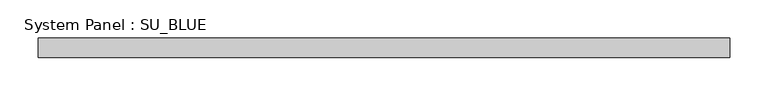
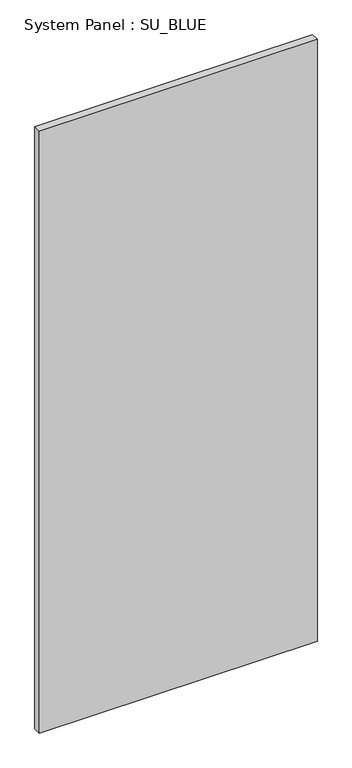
"""IFC4 building model written with IfcOpenShell, lengths in millimetres: plate geometry, System Panel : SU_BLUE."""

import ifcopenshell
import ifcopenshell.guid

model = None  # the IFC model being written
_history = None  # IfcOwnerHistory: only IFC2X3 demands one
_inside = {}  # id of a spatial element -> (the spatial element, [elements in it])
_under = {}  # id of a project, library or spatial element -> (it, [spatial elements below it])
_declared = {}  # id of a project -> (the project, [libraries it declares])
_typed = {}  # id of a type object -> (the type object, [elements of that type])
_made_of = {}  # id of a material, layer set ... -> (it, [elements and type objects made of it])


def new_model(schema):
    """Start an empty IFC model of exactly this schema.

    Asked for "IFC4X3", IfcOpenShell would pick the latest addendum, in which some entities
    have other attributes; the version numbers below select the first issue.
    IFC2X3 requires an IfcOwnerHistory on every rooted entity: one is made here for all.
    """
    global model, _history
    if schema == "IFC4X3":
        model = ifcopenshell.file(schema_version=(4, 3, 0, 0))
    else:
        model = ifcopenshell.file(schema=schema)
    _inside.clear()
    _under.clear()
    _declared.clear()
    _typed.clear()
    _made_of.clear()
    _history = None
    if model.schema == "IFC2X3":
        org = make("IfcOrganization", Name="unknown")
        user = make(
            "IfcPersonAndOrganization",
            ThePerson=make("IfcPerson", FamilyName="unknown"),
            TheOrganization=org,
        )
        app = make(
            "IfcApplication",
            ApplicationDeveloper=org,
            Version="unknown",
            ApplicationFullName="unknown",
            ApplicationIdentifier="unknown",
        )
        _history = make(
            "IfcOwnerHistory",
            OwningUser=user,
            OwningApplication=app,
            ChangeAction="ADDED",
            CreationDate=0,
        )
    return model


def make(cls, **values):
    """One entity of the class cls with the attributes given. An attribute that is None is left unset."""
    return model.create_entity(
        cls, **{name: value for name, value in values.items() if value is not None}
    )


def rooted(cls, **values):
    """An entity with a GlobalId (a new one), such as an element, a storey or a relation."""
    return make(cls, GlobalId=ifcopenshell.guid.new(), OwnerHistory=_history, **values)


def si_unit(unit_type, name, prefix=None):
    """IfcSIUnit, for example si_unit("LENGTHUNIT", "METRE", prefix="MILLI")."""
    return make("IfcSIUnit", UnitType=unit_type, Prefix=prefix, Name=name)


def assignment(units):
    """IfcUnitAssignment: the units of a project."""
    return None if units is None else make("IfcUnitAssignment", Units=units)


def point(xyz):
    """IfcCartesianPoint."""
    return None if xyz is None else make("IfcCartesianPoint", Coordinates=xyz)


def direction(xyz):
    """IfcDirection."""
    return None if xyz is None else make("IfcDirection", DirectionRatios=xyz)


def frame(location, z_axis=None, x_axis=None):
    """IfcAxis2Placement3D, a coordinate frame: its origin and axes. An axis left out is left unset."""
    return make(
        "IfcAxis2Placement3D",
        Location=point(location),
        Axis=direction(z_axis),
        RefDirection=direction(x_axis),
    )


def origin():
    """The frame at (0, 0, 0) with its axes left unset."""
    return frame((0.0, 0.0, 0.0))


def origin_with_axes():
    """The frame at (0, 0, 0) with the z axis (0, 0, 1) and the x axis (1, 0, 0) written out."""
    return frame((0.0, 0.0, 0.0), z_axis=(0.0, 0.0, 1.0), x_axis=(1.0, 0.0, 0.0))


def place(relative_to, where):
    """IfcLocalPlacement: puts the frame where relative to a parent placement (None: the world)."""
    return make(
        "IfcLocalPlacement", PlacementRelTo=relative_to, RelativePlacement=where
    )


def context(
    kind, dimensions, precision=None, world=None, true_north=None, identifier=None
):
    """IfcGeometricRepresentationContext, for example the 3D "Model" context."""
    return make(
        "IfcGeometricRepresentationContext",
        ContextIdentifier=identifier,
        ContextType=kind,
        CoordinateSpaceDimension=dimensions,
        Precision=precision,
        WorldCoordinateSystem=world,
        TrueNorth=true_north,
    )


def project(units=None, contexts=None):
    """IfcProject with its units and contexts."""
    return rooted(
        "IfcProject",
        Name="project",
        RepresentationContexts=contexts,
        UnitsInContext=assignment(units),
    )


def spatial(cls, under=None, at=None, **own):
    """A site, building, storey or space (cls), placed at a placement, below another one or the project."""
    s = rooted(cls, ObjectPlacement=at, **own)
    if under is not None:
        _under.setdefault(under.id(), (under, []))[1].append(s)
    return s


def polyline(points):
    """IfcPolyline through the points."""
    return make("IfcPolyline", Points=[point(p) for p in points])


def outline(outer, holes=None, kind="AREA"):
    """IfcArbitraryClosedProfileDef: a profile drawn as a closed curve; with holes, ...WithVoids."""
    if holes is None:
        return make("IfcArbitraryClosedProfileDef", ProfileType=kind, OuterCurve=outer)
    return make(
        "IfcArbitraryProfileDefWithVoids",
        ProfileType=kind,
        OuterCurve=outer,
        InnerCurves=holes,
    )


def extrude(swept, where, along, depth):
    """IfcExtrudedAreaSolid: the profile swept, set in the frame where, extruded along a direction by depth."""
    return make(
        "IfcExtrudedAreaSolid",
        SweptArea=swept,
        Position=where,
        ExtrudedDirection=direction(along),
        Depth=depth,
    )


def shape(context_of_items, identifier, shape_type, items):
    """IfcShapeRepresentation: the items that make up one representation, for example the "Body"."""
    return make(
        "IfcShapeRepresentation",
        ContextOfItems=context_of_items,
        RepresentationIdentifier=identifier,
        RepresentationType=shape_type,
        Items=items,
    )


def source(mapping_origin, context_of_items, identifier, shape_type, items):
    """IfcRepresentationMap: a shape defined once, which mapped items show again and again."""
    return make(
        "IfcRepresentationMap",
        MappingOrigin=mapping_origin,
        MappedRepresentation=shape(context_of_items, identifier, shape_type, items),
    )


def transform(
    local_origin,
    x_axis=None,
    y_axis=None,
    z_axis=None,
    scale=None,
    scale2=None,
    scale3=None,
    uniform=True,
):
    """IfcCartesianTransformationOperator3D, or its non-uniform kind. x_axis, y_axis, z_axis: its Axis1, 2, 3."""
    if uniform:
        return make(
            "IfcCartesianTransformationOperator3D",
            Axis1=direction(x_axis),
            Axis2=direction(y_axis),
            LocalOrigin=point(local_origin),
            Scale=scale,
            Axis3=direction(z_axis),
        )
    return make(
        "IfcCartesianTransformationOperator3DnonUniform",
        Axis1=direction(x_axis),
        Axis2=direction(y_axis),
        LocalOrigin=point(local_origin),
        Scale=scale,
        Axis3=direction(z_axis),
        Scale2=scale2,
        Scale3=scale3,
    )


def mapped(mapping_source, mapping_target):
    """IfcMappedItem: shows the shape of a source again, moved by a transform."""
    return make(
        "IfcMappedItem", MappingSource=mapping_source, MappingTarget=mapping_target
    )


def made_of(thing, what):
    """Note that an element or type object is made of a material, layer set ...; save() writes the relation."""
    if what is not None:
        _made_of.setdefault(what.id(), (what, []))[1].append(thing)
    return thing


def element(
    cls,
    number,
    at=None,
    inside=None,
    cuts=None,
    type_object=None,
    material=None,
    context=None,
    identifier="Body",
    shape_type=None,
    held_by="IfcProductDefinitionShape",
    body=None,
    shapes=None,
    **own,
):
    """One element of the class cls, such as IfcWall. Its Tag is "e" and its number.

    at: its placement. inside: the storey or other place that contains it. cuts: it is an
    opening in that element (IfcRelVoidsElement). A single representation is given by context,
    identifier, shape_type and body (its items); several are given by shapes. held_by: the class
    of the entity that holds the representations. save() writes the other relations.
    """
    e = rooted(cls, Tag="e%d" % number, ObjectPlacement=at, **own)
    if body is not None:
        shapes = [shape(context, identifier, shape_type, body)]
    if shapes is not None:
        e.Representation = make(held_by, Representations=shapes)
    if inside is not None:
        _inside.setdefault(inside.id(), (inside, []))[1].append(e)
    if cuts is not None:
        rooted(
            "IfcRelVoidsElement", RelatingBuildingElement=cuts, RelatedOpeningElement=e
        )
    if type_object is not None:
        _typed.setdefault(type_object.id(), (type_object, []))[1].append(e)
    return made_of(e, material)


def aggregate(whole, parts):
    """IfcRelAggregates: a whole, such as a stair, and the parts it consists of."""
    return rooted("IfcRelAggregates", RelatingObject=whole, RelatedObjects=parts)


def save(model, path):
    """Write the relations noted so far, then the file.

    IfcRelAggregates (storeys below a building ...), IfcRelContainedInSpatialStructure (elements
    in a storey), IfcRelDefinesByType, IfcRelAssociatesMaterial and IfcRelDeclares: one each for
    every whole, place, type object, material and project.
    """
    for whole, parts in _under.values():
        aggregate(whole, parts)
    for where, things in _inside.values():
        rooted(
            "IfcRelContainedInSpatialStructure",
            RelatedElements=things,
            RelatingStructure=where,
        )
    for kind, things in _typed.values():
        rooted("IfcRelDefinesByType", RelatedObjects=things, RelatingType=kind)
    for what, things in _made_of.values():
        rooted("IfcRelAssociatesMaterial", RelatedObjects=things, RelatingMaterial=what)
    for by, libraries in _declared.values():
        rooted("IfcRelDeclares", RelatingContext=by, RelatedDefinitions=libraries)
    model.write(path)


def system_panel_su_blue_125f0d55(model_context):
    return source(origin(), model_context, "Body", "SweptSolid", [
        extrude(outline(polyline([(452.5443201, 19.05), (-452.5443201, 19.05), (-452.5443201, 44.45), (452.5443201, 44.45), (452.5443201, 19.05)])), origin_with_axes(), (0.0, 0.0, 1.0), 2070.1),
    ])


if __name__ == "__main__":
    model = new_model("IFC4")
    model_context = context("Model", 3, world=origin())
    ifc_project = project(units=[si_unit("LENGTHUNIT", "METRE", prefix="MILLI")], contexts=[model_context])
    site = spatial("IfcSite", under=ifc_project)
    building = spatial("IfcBuilding", under=site)
    placement = place(None, origin())
    system_panel_su_blue_shape = system_panel_su_blue_125f0d55(model_context)
    element("IfcPlate", 1, ObjectType="System Panel : SU_BLUE", at=placement, inside=building, context=model_context, shape_type="MappedRepresentation", body=[
        mapped(system_panel_su_blue_shape, transform((0.0, 0.0, 0.0), x_axis=(1.0, 0.0, 0.0), y_axis=(0.0, 1.0, 0.0), z_axis=(0.0, 0.0, 1.0))),
    ])
    save(model, "model.ifc")
